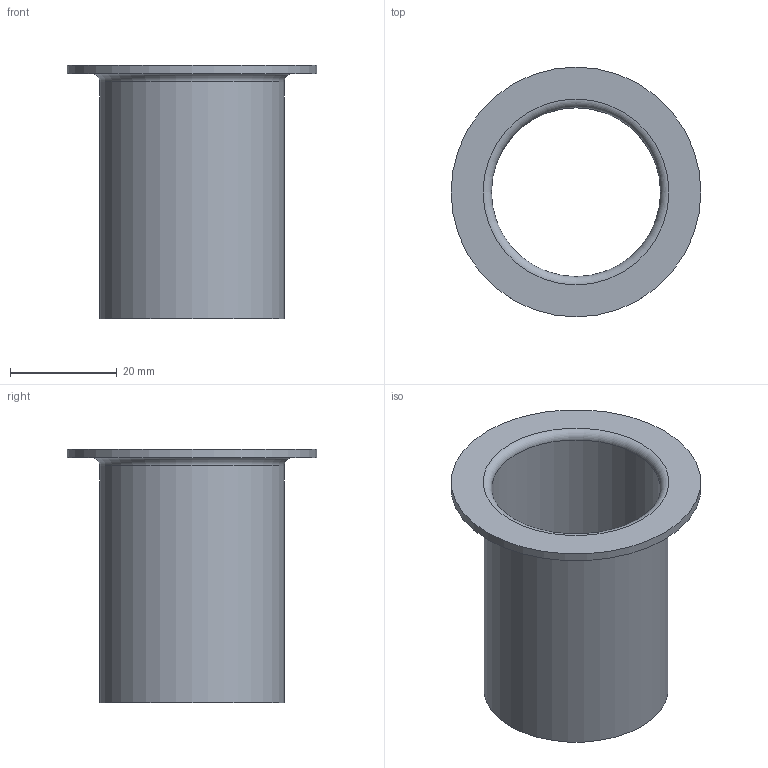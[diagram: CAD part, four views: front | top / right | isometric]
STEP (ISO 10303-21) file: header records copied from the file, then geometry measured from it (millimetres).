
FILE_DESCRIPTION (( 'STEP AP203' ), '1' );
FILE_NAME ('AN3420-24(R1).STEP', '2021-06-22T05:04:18', ( '' ), ( '' ), 'SwSTEP 2.0', 'SolidWorks 2018', '' );
FILE_SCHEMA (( 'CONFIG_CONTROL_DESIGN' ));
Length unit declared in the file: millimetre
Products named in the file (1): AN3420-24(R1)
Bounding box: 46.91 x 46.91 x 47.6 mm (x, y, z)
Volume: 8486.8 mm3; surface area: 11727.5 mm2
Topology: 1 solids, 1 shells, 8 faces, 14 edges, 9 vertices
Faces by surface type: plane 3, cylinder 3, torus 2
Full cylindrical faces by diameter (mm): 31.75 x1, 34.67 x1, 46.91 x1
Entity records: 245 total; most frequent: DIRECTION 34, CARTESIAN_POINT 25, AXIS2_PLACEMENT_3D 17, EDGE_LOOP 16, ORIENTED_EDGE 16, FACE_OUTER_BOUND 13, CIRCLE 8, EDGE_CURVE 8
